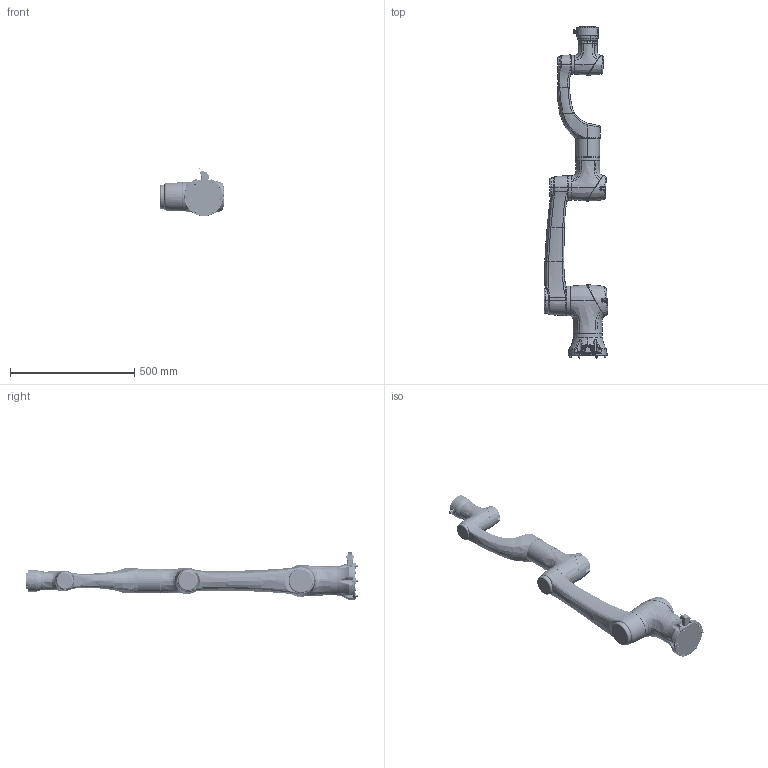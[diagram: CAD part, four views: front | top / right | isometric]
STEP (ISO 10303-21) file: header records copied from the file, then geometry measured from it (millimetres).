
FILE_DESCRIPTION (( 'STEP AP214' ), '1' );
FILE_NAME ('E05L-IP54、压铸、总线末端机械手模型_20220707.STEP', '2022-12-15T03:43:29', ( '' ), ( '' ), 'SwSTEP 2.0', 'SolidWorks 2020', '' );
FILE_SCHEMA (( 'AUTOMOTIVE_DESIGN' ));
Length unit declared in the file: millimetre
Products named in the file (73): 5kg狟旋奻耜裔耀倰_20220706; Part7.1^12B2(2)_12B2-带蓝灯-IP67防水-自复红波按钮2; 14粣耀郪綴裔耀倰; M3x10_20190806_1.1_CB3-14; Part7^12B2(2)_12B2-带蓝灯-IP67防水-自复红波按钮2; M3x20_20190806_1.1_CB3-14; 1419713瑤脣裔; Part13.1^12B2(2); Part22^12B2(2); Part5.1^12B2(2); φ78X1 O型圈; E05-L奻旋耀倰_20220707; 1419713; Elfin_菁釱郪璃_脣芛裔_IP66_20190806_1.1; 12B2-带蓝灯-IP67防水-自复红波按钮; 14轴末端转接块模型_20220707; Part28.1.1.1^12B2(2); Elfin_菁釱脣芛_IP66_20190806_1.1; Part22^12B2(2)_12B2-带蓝灯-IP67防水-自复红波按钮2; E05-L奻旋耀倰_20220705; Part1^12B2(2)_12B2-带蓝灯-IP67防水-自复红波按钮2; 14axial_module_ 耀倰_20220706; M3x28_CB3-16; M12金属按钮开关螺母; Part16^12B2(2)_12B2-带蓝灯-IP67防水-自复红波按钮2; 5-10kg藺傷俋褲耀倰_IP66; Symmetry of Part5.1^12B2(2)_12B2-带蓝灯-IP67防水-自复红波按钮2; Symmetry of Part5.1^12B2(2); Part6; Part13.1.2^12B2(2)_12B2-带蓝灯-IP67防水-自复红波按钮2; 20耀郪妗昜耀倰_20220705; 12B2(2); Part5^12B2(2)_12B2-带蓝灯-IP67防水-自复红波按钮2; 25模组后端盖模型_20220706_增加锥形孔; 14粣藺傷耀倰_IP66; Part6^12B2(2); 瑤脣蹟譫; Symmetry of Part5^12B2(2)_12B2-带蓝灯-IP67防水-自复红波按钮2; Part30^12B2(2)_12B2-带蓝灯-IP67防水-自复红波按钮2; Part13.1.2^12B2(2)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
Assembly tree (85 placements, depth 5):
  E05L-IP54、压铸、总线末端机械手模型_20220707
    E05_菁釱郪璃耀倰_20220706
      Elfin_菁釱脣芛_IP66_20190806_1.1
        Elfin_菁釱郪璃_脣芛釱_IP66_20190806_1.1
        Elfin_菁釱郪璃_脣芛裔_IP66_20190806_1.1
        Elfin_底座组件_插头卡环_IP66_20190806_1.1
      5kg菁釱耀倰_20220706
    25axial_module_耀倰_20220705
      M3x14_IP66_20190806_2.0_CB3-16  x4
      25粣耀郪耀倰_20220706
      25模组后端盖模型_20220706_增加锥形孔
    E05-L_IP54 下臂组件_实物模型_20220706
      5kg狟旋狟耜裔耀倰_20220706
      5kg狟旋奻耜裔耀倰_20220706
      E05-L_IP54 狟旋耀倰_20220714
    20axial_module_耀倰_20220705
      M3x20_20190806_1.1_CB3-14
      M3x10_20190806_1.1_CB3-14  x2
      hexagon socket head cap screws gb_GB_FASTENER_SCREWS_HSHCS M3X12-N
      20耀郪妗昜耀倰_20220705
      20模组后端盖模型_20220705_原始
    E05-L奻旋耀倰_20220705
      E05-L奻旋耀倰_20220707
      5kg奻旋耜裔耀倰_20220706
    14axial_module_ 耀倰_20220706
      hexagon socket head cap screws gb_GB_FASTENER_SCREWS_HSHCS M3X20-N
      M3x28_CB3-16
      14粣耀郪妗昜耀倰
      14粣耀郪綴裔耀倰
    GB／T70．1-2000内六角圆柱头螺钉M6×20  x6
    14粣藺傷耀倰_IP66
      5-10kg藺傷俋褲耀倰_IP66
      1419713
      12B2-带蓝灯-IP67防水-自复红波按钮
        12B2(2)
          Part7^12B2(2)
          Part5^12B2(2)
          Part5.1^12B2(2)
          Symmetry of Part5^12B2(2)
          Symmetry of Part5.1^12B2(2)
          Part13.1.2^12B2(2)
          Part30^12B2(2)
          Part13.1^12B2(2)
          Part6^12B2(2)
          Part28.1.1^12B2(2)
          Part1^12B2(2)
          Part7.1^12B2(2)
          Part16^12B2(2)
          Part22^12B2(2)
          Part28.1.1.1^12B2(2)
          M12金属按钮开关螺母
      12B2(2)^12B2-带蓝灯-IP67防水-自复红波按钮2
        Part7^12B2(2)_12B2-带蓝灯-IP67防水-自复红波按钮2
        Part5^12B2(2)_12B2-带蓝灯-IP67防水-自复红波按钮2
        Part5.1^12B2(2)_12B2-带蓝灯-IP67防水-自复红波按钮2
        Symmetry of Part5^12B2(2)_12B2-带蓝灯-IP67防水-自复红波按钮2
        Symmetry of Part5.1^12B2(2)_12B2-带蓝灯-IP67防水-自复红波按钮2
        Part13.1.2^12B2(2)_12B2-带蓝灯-IP67防水-自复红波按钮2
        Part30^12B2(2)_12B2-带蓝灯-IP67防水-自复红波按钮2
        Part13.1^12B2(2)_12B2-带蓝灯-IP67防水-自复红波按钮2
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Bounding box: 257.45 x 1336.3 x 194.91 mm (x, y, z)
Volume: 12809939 mm3; surface area: 1065470.6 mm2
Topology: 78 solids, 83 shells, 6190 faces, 15784 edges, 9821 vertices
Faces by surface type: plane 2476, bspline 1488, cylinder 1163, cone 637, torus 411, sphere 15
Entity records: 415310 total; most frequent: CARTESIAN_POINT 275881, ORIENTED_EDGE 29956, DIRECTION 23473, EDGE_CURVE 14978, VERTEX_POINT 9423, AXIS2_PLACEMENT_3D 8388, VECTOR 6697, LINE 6697
